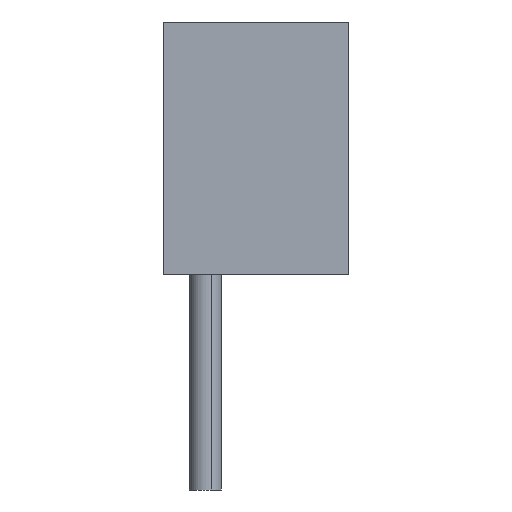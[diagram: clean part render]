
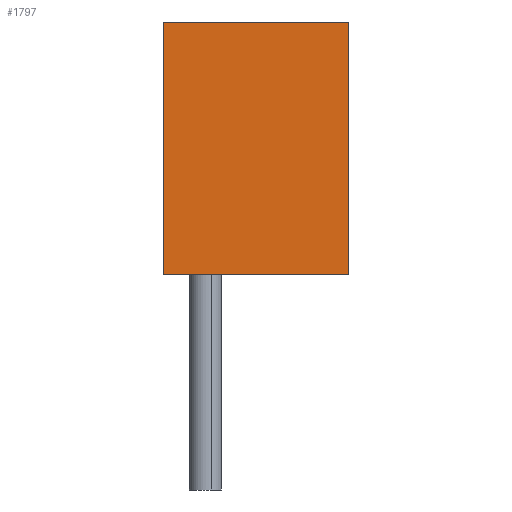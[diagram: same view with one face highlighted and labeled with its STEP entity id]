
A CAD part, left-side view. The second image highlights one B-rep face of the part: STEP entity #1797.
In plain terms, the highlighted planar face has unit normal (-1, 0, 0).
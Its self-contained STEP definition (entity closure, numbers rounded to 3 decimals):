
#1753 = EDGE_CURVE('',#1754,#1756,#1758,.T.);
#1754 = VERTEX_POINT('',#1755);
#1755 = CARTESIAN_POINT('',(-65.,11.,0.));
#1756 = VERTEX_POINT('',#1757);
#1757 = CARTESIAN_POINT('',(-65.,11.,30.));
#1758 = LINE('',#1759,#1760);
#1759 = CARTESIAN_POINT('',(-65.,11.,30.));
#1760 = VECTOR('',#1761,1.);
#1761 = DIRECTION('',(0.,-0.,1.));
#1797 = ADVANCED_FACE('',(#1798),#1823,.F.);
#1798 = FACE_BOUND('',#1799,.T.);
#1799 = EDGE_LOOP('',(#1800,#1810,#1816,#1817));
#1800 = ORIENTED_EDGE('',*,*,#1801,.T.);
#1801 = EDGE_CURVE('',#1802,#1804,#1806,.T.);
#1802 = VERTEX_POINT('',#1803);
#1803 = CARTESIAN_POINT('',(-65.,-11.,0.));
#1804 = VERTEX_POINT('',#1805);
#1805 = CARTESIAN_POINT('',(-65.,-11.,30.));
#1806 = LINE('',#1807,#1808);
#1807 = CARTESIAN_POINT('',(-65.,-11.,30.));
#1808 = VECTOR('',#1809,1.);
#1809 = DIRECTION('',(0.,-0.,1.));
#1810 = ORIENTED_EDGE('',*,*,#1811,.F.);
#1811 = EDGE_CURVE('',#1756,#1804,#1812,.T.);
#1812 = LINE('',#1813,#1814);
#1813 = CARTESIAN_POINT('',(-65.,11.,30.));
#1814 = VECTOR('',#1815,1.);
#1815 = DIRECTION('',(0.,-1.,-0.));
#1816 = ORIENTED_EDGE('',*,*,#1753,.F.);
#1817 = ORIENTED_EDGE('',*,*,#1818,.T.);
#1818 = EDGE_CURVE('',#1754,#1802,#1819,.T.);
#1819 = LINE('',#1820,#1821);
#1820 = CARTESIAN_POINT('',(-65.,11.,0.));
#1821 = VECTOR('',#1822,1.);
#1822 = DIRECTION('',(0.,-1.,-0.));
#1823 = PLANE('',#1824);
#1824 = AXIS2_PLACEMENT_3D('',#1825,#1826,#1827);
#1825 = CARTESIAN_POINT('',(-65.,11.,30.));
#1826 = DIRECTION('',(1.,0.,-0.));
#1827 = DIRECTION('',(-0.,0.,-1.));
